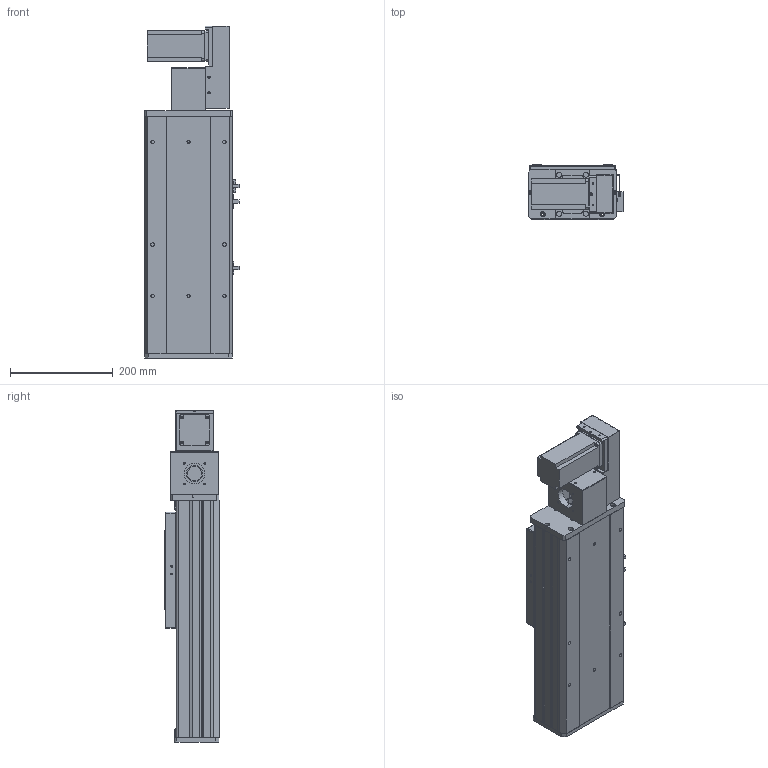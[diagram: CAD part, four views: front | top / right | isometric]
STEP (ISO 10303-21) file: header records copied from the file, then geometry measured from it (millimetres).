
FILE_DESCRIPTION (( 'STEP AP203' ), '1' );
FILE_NAME ('Y170CB-D105-S150-BR-P400W.STEP', '2020-02-19T08:33:56', ( '微软用户' ), ( '微软中国' ), 'SwSTEP 2.0', 'SolidWorks 2017', '' );
FILE_SCHEMA (( 'CONFIG_CONTROL_DESIGN' ));
Length unit declared in the file: millimetre
Products named in the file (17): 70B喘謫眊----; B-源倛裔啣; 17B-耜蚾蟀諉啣----; 0B-萇儂楊擘啣; san松下电机400不带刹车----; Y70俋欶BR----; 70CB-掛极-; --70CB --喘謫眊楊擘啣-; 70CB-耜裔啣-; 70C--詩湍揤踡え-; 70CB--耜裔; 70C-雄赽釱-奻-; 0C--雄赽釱俋欶-170; 70CB-詩湍--; Y100-135俋离換覜ん--; Y170CB-陔俋离換覜結え---; Y170CB-D105-S150-BR-P400W
Assembly tree (20 placements, depth 2):
  Y170CB-D105-S150-BR-P400W
    70B喘謫眊----
    B-源倛裔啣
    17B-耜蚾蟀諉啣----
    0B-萇儂楊擘啣
    san松下电机400不带刹车----
    Y70俋欶BR----
    70CB-掛极-
    --70CB --喘謫眊楊擘啣-
    70CB-耜裔啣-  x2
    70C--詩湍揤踡え-  x2
    70CB--耜裔
    70C-雄赽釱-奻-
    0C--雄赽釱俋欶-170
    70CB-詩湍--
    Y100-135俋离換覜ん--  x3
    Y170CB-陔俋离換覜結え---
Bounding box: 183.5 x 107 x 647 mm (x, y, z)
Volume: 3185368.7 mm3; surface area: 1115180.5 mm2
Topology: 20 solids, 20 shells, 957 faces, 2546 edges, 1688 vertices
Faces by surface type: cylinder 472, plane 461, cone 24
Entity records: 30074 total; most frequent: CARTESIAN_POINT 5446, DIRECTION 4903, ORIENTED_EDGE 4574, EDGE_CURVE 2287, AXIS2_PLACEMENT_3D 1777, VERTEX_POINT 1518, LINE 1349, VECTOR 1349
